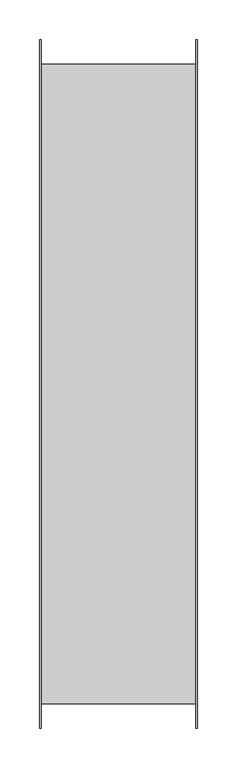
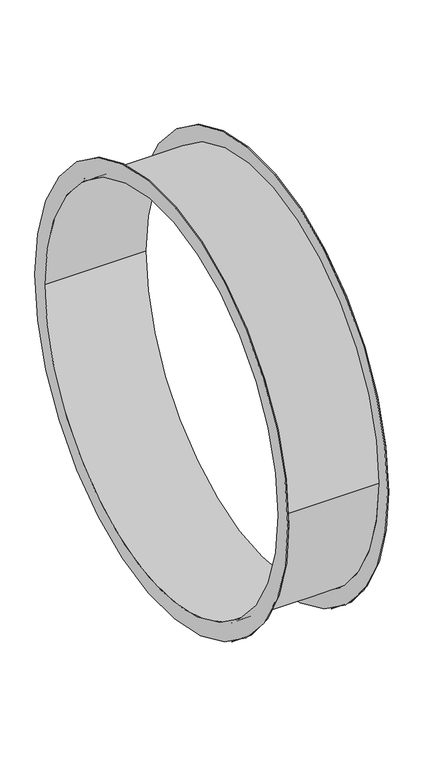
"""IFC4 building model written with IfcOpenShell, lengths in millimetres: duct fitting geometry, MERCOR - Połączenie elastyczne do obudowy walcowej : Połączenie elastyczne do układu mcr EXi-F 80-1M."""

from ifc_helpers import new_model, si_unit, frame, origin, place, context, project, spatial, polyline, circle_curve, source, transform, mapped, element, save
from ifc_brep_helpers import plane_surface, cylinder_surface, revolved_surface, advanced_brep


def duct_fitting_ef36dd84(model_context):
    return source(origin(), model_context, "Body", "AdvancedBrep", [
        advanced_brep(
        [(100.0, -435.0, 0.0), (100.0, 435.0, 0.0), (100.0, 400.0, 0.0), (100.0, -400.0, 0.0), (-100.0, -435.0, 0.0), (-100.0, 435.0, 0.0), (-100.0, -400.0, 0.0), (-100.0, 400.0, 0.0), (-98.0, -404.0, 0.0), (-98.0, 404.0, 0.0), (98.0, 404.0, 0.0), (98.0, -404.0, 0.0), (-98.0, -435.0, 0.0), (-98.0, 435.0, 0.0), (98.0, -435.0, 0.0), (98.0, 435.0, 0.0)],
        [
            (0, 1, circle_curve(frame((100.0, 0.0, 0.0), z_axis=(1.0, 0.0, 0.0), x_axis=(0.0, 1.0, 0.0)), 435.0)),
            (1, 0, circle_curve(frame((100.0, 0.0, 0.0), z_axis=(1.0, 0.0, 0.0), x_axis=(0.0, 1.0, 0.0)), 435.0)),
            (2, 3, circle_curve(frame((100.0, 0.0, 0.0), z_axis=(-1.0, 0.0, 0.0), x_axis=(0.0, 1.0, 0.0)), 400.0)),
            (3, 2, circle_curve(frame((100.0, 0.0, 0.0), z_axis=(-1.0, 0.0, 0.0), x_axis=(0.0, 1.0, 0.0)), 400.0)),
            (4, 5, circle_curve(frame((-100.0, 0.0, 0.0), z_axis=(-1.0, 0.0, 0.0), x_axis=(0.0, 1.0, 0.0)), 435.0)),
            (5, 4, circle_curve(frame((-100.0, 0.0, 0.0), z_axis=(-1.0, 0.0, 0.0), x_axis=(0.0, 1.0, 0.0)), 435.0)),
            (6, 7, circle_curve(frame((-100.0, 0.0, 0.0), z_axis=(1.0, 0.0, 0.0), x_axis=(0.0, 1.0, 0.0)), 400.0)),
            (7, 6, circle_curve(frame((-100.0, 0.0, 0.0), z_axis=(1.0, 0.0, 0.0), x_axis=(0.0, 1.0, 0.0)), 400.0)),
            (8, 9, circle_curve(frame((-98.0, 0.0, 0.0), z_axis=(1.0, 0.0, 0.0), x_axis=(0.0, 1.0, 0.0)), 404.0)),
            (9, 10),
            (10, 11, circle_curve(frame((98.0, 0.0, 0.0), z_axis=(-1.0, 0.0, 0.0), x_axis=(0.0, 1.0, 0.0)), 404.0)),
            (11, 8),
            (9, 8, circle_curve(frame((-98.0, 0.0, 0.0), z_axis=(1.0, 0.0, 0.0), x_axis=(0.0, 1.0, 0.0)), 404.0)),
            (11, 10, circle_curve(frame((98.0, 0.0, 0.0), z_axis=(-1.0, 0.0, 0.0), x_axis=(0.0, 1.0, 0.0)), 404.0)),
            (12, 13, circle_curve(frame((-98.0, 0.0, 0.0), z_axis=(1.0, 0.0, 0.0), x_axis=(0.0, 1.0, 0.0)), 435.0)),
            (13, 12, circle_curve(frame((-98.0, 0.0, 0.0), z_axis=(1.0, 0.0, 0.0), x_axis=(0.0, 1.0, 0.0)), 435.0)),
            (12, 4),
            (5, 13),
            (14, 15, circle_curve(frame((98.0, 0.0, 0.0), z_axis=(-1.0, 0.0, 0.0), x_axis=(0.0, 1.0, 0.0)), 435.0)),
            (15, 14, circle_curve(frame((98.0, 0.0, 0.0), z_axis=(-1.0, 0.0, 0.0), x_axis=(0.0, 1.0, 0.0)), 435.0)),
            (0, 14),
            (15, 1),
            (2, 7),
            (6, 3),
        ],
        [
            plane_surface(frame((100.0, 404.0, 0.0), z_axis=(1.0, 0.0, 0.0), x_axis=(0.0, 0.0, 1.0))),
            plane_surface(frame((-100.0, 404.0, 0.0), z_axis=(-1.0, 0.0, 0.0), x_axis=(0.0, 0.0, -1.0))),
            cylinder_surface(frame((-100.0, 0.0, 0.0), z_axis=(1.0, 0.0, 0.0), x_axis=(0.0, 1.0, 0.0)), 404.0),
            plane_surface(frame((-98.0, 435.0, 0.0), z_axis=(1.0, 0.0, 0.0), x_axis=(0.0, 0.0, 1.0))),
            cylinder_surface(frame((-100.0, 0.0, 0.0), z_axis=(1.0, 0.0, 0.0), x_axis=(0.0, 1.0, 0.0)), 435.0),
            plane_surface(frame((98.0, 435.0, 0.0), z_axis=(-1.0, 0.0, 0.0), x_axis=(0.0, 0.0, -1.0))),
            cylinder_surface(frame((98.0, 0.0, 0.0), z_axis=(1.0, 0.0, 0.0), x_axis=(0.0, 1.0, 0.0)), 435.0),
            revolved_surface(polyline([(100.0, 400.0, 0.0), (-100.0, 400.0, 0.0)]), (-100.0, 0.0, 0.0), (1.0, 0.0, 0.0)),
        ],
        [
            (0, [[1, 2], [3, 4]]),
            (1, [[5, 6], [7, 8]]),
            (2, [[9, 10, 11, 12]]),
            (2, [[13, -12, 14, -10]]),
            (3, [[15, 16], [-9, -13]]),
            (4, [[-15, 17, -6, 18]]),
            (4, [[-16, -18, -5, -17]]),
            (5, [[19, 20], [-11, -14]]),
            (6, [[-1, 21, -20, 22]]),
            (6, [[-2, -22, -19, -21]]),
            (7, [[23, -7, 24, -3]]),
            (7, [[-23, -4, -24, -8]]),
        ],
    ),
    ])


if __name__ == "__main__":
    model = new_model("IFC4")
    model_context = context("Model", 3, world=origin())
    ifc_project = project(units=[si_unit("LENGTHUNIT", "METRE", prefix="MILLI")], contexts=[model_context])
    site = spatial("IfcSite", under=ifc_project)
    building = spatial("IfcBuilding", under=site)
    placement = place(None, origin())
    duct_fitting_shape = duct_fitting_ef36dd84(model_context)
    element("IfcDuctFitting", 1, ObjectType="MERCOR - Połączenie elastyczne do obudowy walcowej : Połączenie elastyczne do układu mcr EXi-F 80-1M", at=placement, inside=building, context=model_context, shape_type="MappedRepresentation", body=[
        mapped(duct_fitting_shape, transform((0.0, 0.0, 0.0), x_axis=(1.0, 0.0, 0.0), y_axis=(0.0, 1.0, 0.0), z_axis=(0.0, 0.0, 1.0))),
    ])
    save(model, "model.ifc")
